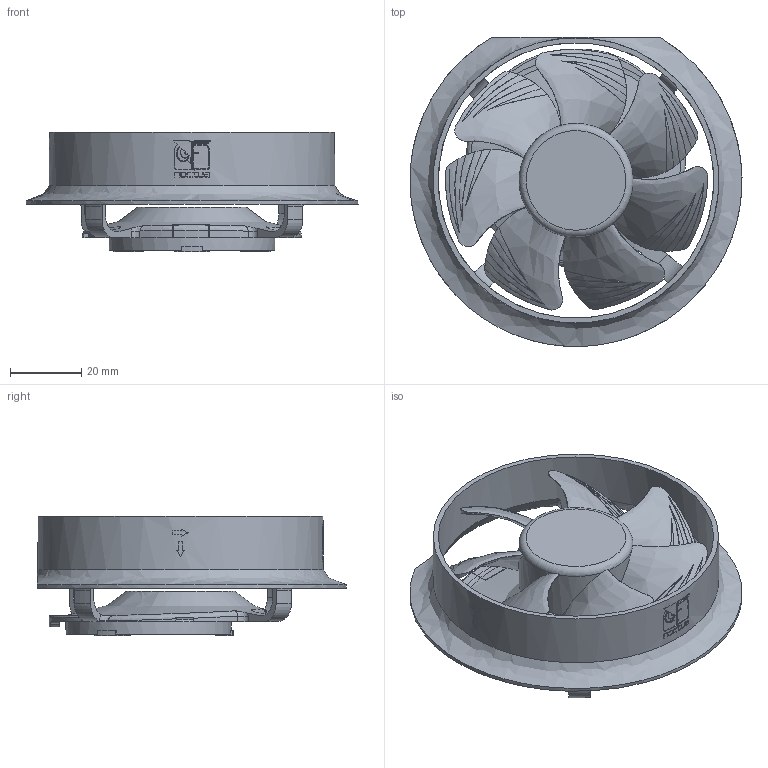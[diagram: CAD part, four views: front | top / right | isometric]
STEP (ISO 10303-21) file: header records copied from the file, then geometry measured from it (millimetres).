
FILE_DESCRIPTION(/* description */ ('140mm Desk Fan'),/* implementation_level */ '2;1');
FILE_NAME(/* name */ 'NL-ACF1_Public-CAD',/* time_stamp */ '2026-10-21T11:45:49+02:00',/* author */ ('Andreas'),/* organization */ ('Rascom'),/* preprocessor_version */ 'ST-DEVELOPER v18.102',/* originating_system */ 'Solid Edge',/* authorisation */ 'Unknown');
FILE_SCHEMA (('AUTOMOTIVE_DESIGN {1 0 10303 214 3 1 1}'));
Length unit declared in the file: millimetre
Products named in the file (7): NL-ACF1_Public-CAD; NL-ACF1_Frame-Public; NL-ACF1_Plate-Public; NF-A8_impeller-public; Fan-Label-D29mm-Regular; Silicone Rubber; Magnet_10x5x1.5
Assembly tree (8 placements, depth 2):
  NL-ACF1_Public-CAD
    NL-ACF1_Frame-Public
    NL-ACF1_Plate-Public
    NF-A8_impeller-public
    Fan-Label-D29mm-Regular
    Silicone Rubber
    Magnet_10x5x1.5  x3
Bounding box: 92.98 x 86.54 x 33.5 mm (x, y, z)
Volume: 28403.6 mm3; surface area: 39759.2 mm2
Topology: 10 solids, 11 shells, 795 faces, 2208 edges, 1455 vertices
Faces by surface type: plane 356, cylinder 264, bspline 108, torus 52, cone 14, sphere 1
Full cylindrical faces by diameter (mm): 25.4 x1, 27.9 x1, 29 x2, 29.9 x1, 77.2 x1, 80 x1
Entity records: 32499 total; most frequent: CARTESIAN_POINT 13354, ORIENTED_EDGE 4176, DIRECTION 3051, EDGE_CURVE 2088, VERTEX_POINT 1382, AXIS2_PLACEMENT_3D 1112, LINE 827, VECTOR 827
